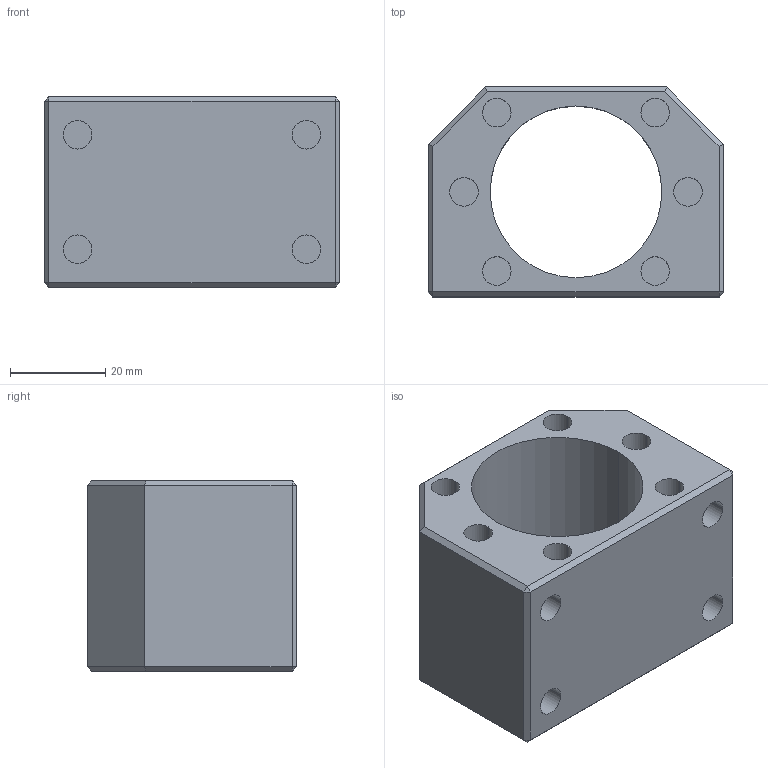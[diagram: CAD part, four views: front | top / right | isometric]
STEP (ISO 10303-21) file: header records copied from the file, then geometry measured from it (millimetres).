
FILE_DESCRIPTION (( 'STEP AP214' ), '1' );
FILE_NAME ('2.4024 Kuulamutterin kotelo DSG20H.STEP', '2024-05-06T08:14:43', ( '' ), ( '' ), 'SwSTEP 2.0', 'SolidWorks 2024', '' );
FILE_SCHEMA (( 'AUTOMOTIVE_DESIGN' ));
Length unit declared in the file: millimetre
Products named in the file (1): 2.4024 Kuulamutterin kotelo DSG20H
Bounding box: 62 x 44 x 40 mm (x, y, z)
Volume: 58147 mm3; surface area: 18119.7 mm2
Topology: 1 solids, 1 shells, 58 faces, 118 edges, 72 vertices
Faces by surface type: plane 36, cylinder 22
Entity records: 1533 total; most frequent: DIRECTION 280, CARTESIAN_POINT 249, ORIENTED_EDGE 236, EDGE_CURVE 118, AXIS2_PLACEMENT_3D 103, LINE 74, VECTOR 74, VERTEX_POINT 72
